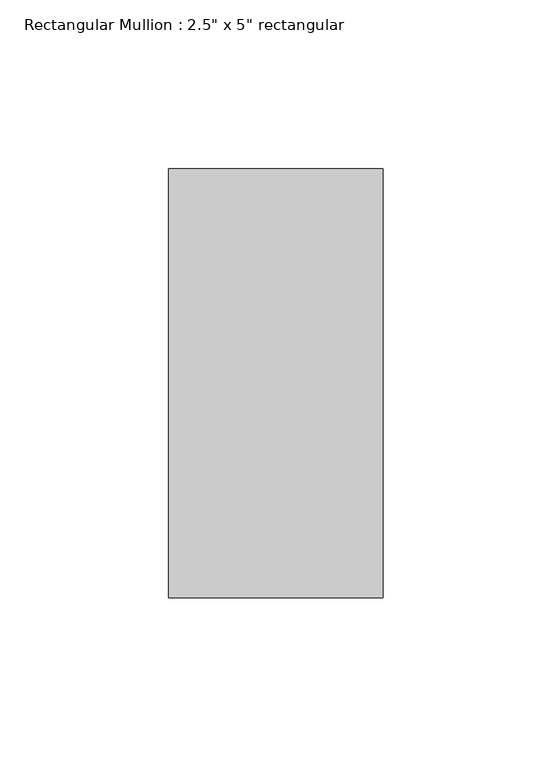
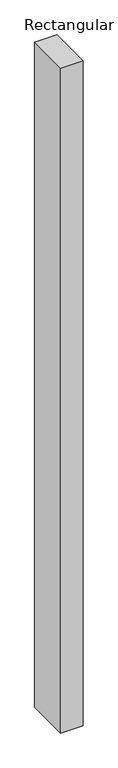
"""IFC4 building model written with IfcOpenShell, lengths in millimetres: member geometry."""

from ifc_helpers import new_model, si_unit, frame, origin, place, context, project, spatial, polyline, outline, extrude, source, transform, mapped, element, save


def member_2a6e87f4(model_context):
    return source(origin(), model_context, "Body", "SweptSolid", [
        extrude(outline(polyline([(31.75, 63.5), (31.75, -63.5), (-31.75, -63.5), (-31.75, 63.5), (31.75, 63.5)])), frame((0.0, 0.0, -1986.746492), z_axis=(0.0, 0.0, 1.0), x_axis=(1.0, 0.0, 0.0)), (0.0, 0.0, 1.0), 1986.746492),
    ])


if __name__ == "__main__":
    model = new_model("IFC4")
    model_context = context("Model", 3, world=origin())
    ifc_project = project(units=[si_unit("LENGTHUNIT", "METRE", prefix="MILLI")], contexts=[model_context])
    site = spatial("IfcSite", under=ifc_project)
    building = spatial("IfcBuilding", under=site)
    placement = place(None, origin())
    member_shape = member_2a6e87f4(model_context)
    element("IfcMember", 1, ObjectType="Rectangular Mullion : 2.5\" x 5\" rectangular", at=placement, inside=building, context=model_context, shape_type="MappedRepresentation", body=[
        mapped(member_shape, transform((0.0, 0.0, 0.0), x_axis=(1.0, 0.0, 0.0), y_axis=(0.0, 1.0, 0.0), z_axis=(0.0, 0.0, 1.0))),
    ])
    save(model, "model.ifc")
